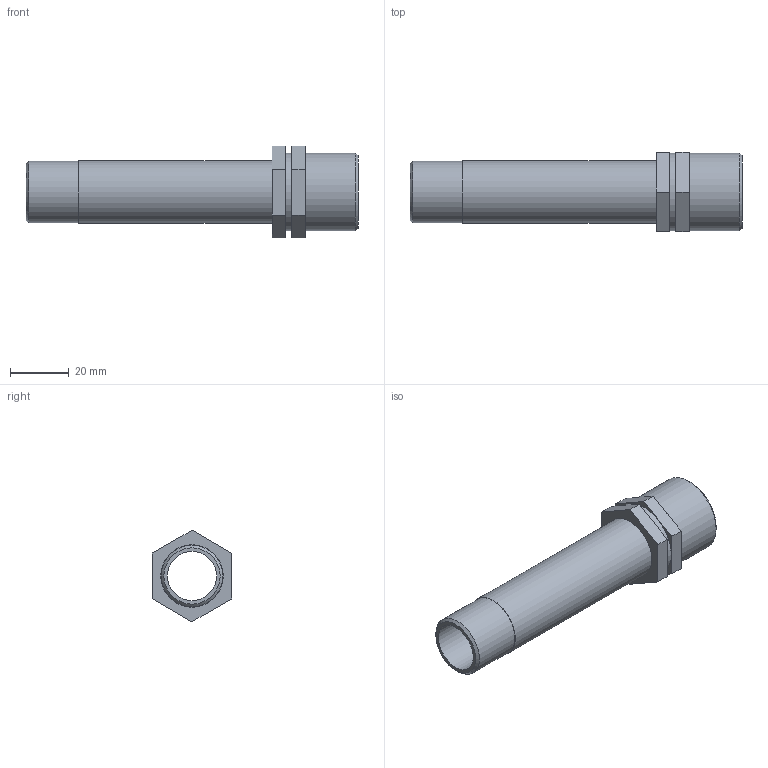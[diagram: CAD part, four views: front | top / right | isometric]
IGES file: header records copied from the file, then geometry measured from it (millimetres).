
Global section: file name: 051607007_0516070070A.ipt; native system: Autodesk Inventor 2015; preprocessor: unknown; author: KIM; date: 20170618.093322; units: millimetre
Bounding box: 113 x 27.05 x 31.18 mm (x, y, z)
Volume: 21374.9 mm3; surface area: 14959 mm2
Topology: 1 solids, 1 shells, 26 faces, 57 edges, 38 vertices
Faces by surface type: plane 19, cylinder 4, cone 2, revolution 1
Full cylindrical faces by diameter (mm): 20.955 x1, 21.272 x1, 26.441 x2
